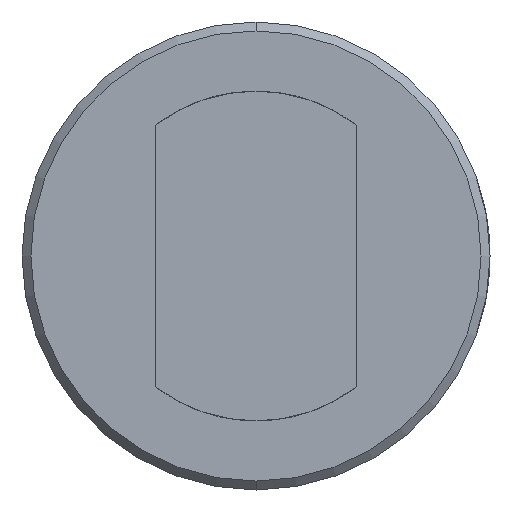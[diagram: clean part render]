
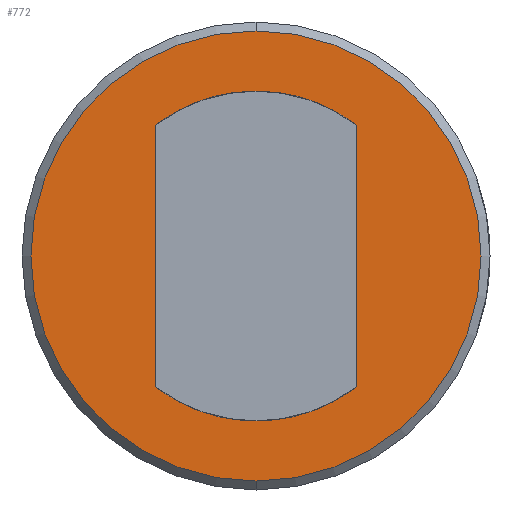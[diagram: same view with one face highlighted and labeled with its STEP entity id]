
A CAD part, front view. The second image highlights one B-rep face of the part: STEP entity #772.
In plain terms, the highlighted planar face has unit normal (0, -1, 0).
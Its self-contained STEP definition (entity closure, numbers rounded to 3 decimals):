
#1 = ORIENTED_EDGE ( 'NONE', *, *, #652, .T. ) ;
#10 = EDGE_CURVE ( 'NONE', #1125, #518, #532, .T. ) ;
#44 = AXIS2_PLACEMENT_3D ( 'NONE', #839, #1004, #325 ) ;
#95 = AXIS2_PLACEMENT_3D ( 'NONE', #254, #877, #349 ) ;
#125 = VERTEX_POINT ( 'NONE', #414 ) ;
#126 = DIRECTION ( 'NONE',  ( 0., -1., 0. ) ) ;
#177 = CIRCLE ( 'NONE', #196, 50.5 ) ;
#196 = AXIS2_PLACEMENT_3D ( 'NONE', #982, #475, #1078 ) ;
#220 = CARTESIAN_POINT ( 'NONE',  ( 13.7, 0., -14.571 ) ) ;
#221 = EDGE_CURVE ( 'NONE', #264, #797, #932, .T. ) ;
#231 = CARTESIAN_POINT ( 'NONE',  ( 0., 0., 0. ) ) ;
#245 = CIRCLE ( 'NONE', #999, 20. ) ;
#253 = CARTESIAN_POINT ( 'NONE',  ( 0., 0., 50.5 ) ) ;
#254 = CARTESIAN_POINT ( 'NONE',  ( 0., 0., 0. ) ) ;
#257 = FACE_OUTER_BOUND ( 'NONE', #815, .T. ) ;
#261 = ORIENTED_EDGE ( 'NONE', *, *, #542, .F. ) ;
#264 = VERTEX_POINT ( 'NONE', #253 ) ;
#298 = CARTESIAN_POINT ( 'NONE',  ( 13.7, 0., -52.5 ) ) ;
#310 = EDGE_CURVE ( 'NONE', #797, #264, #177, .T. ) ;
#324 = CARTESIAN_POINT ( 'NONE',  ( 0., 0., -50.5 ) ) ;
#325 = DIRECTION ( 'NONE',  ( 0., 0., 1. ) ) ;
#349 = DIRECTION ( 'NONE',  ( 0., 0., 1. ) ) ;
#387 = CARTESIAN_POINT ( 'NONE',  ( 0., 0., 0. ) ) ;
#414 = CARTESIAN_POINT ( 'NONE',  ( -13.7, 0., -14.571 ) ) ;
#429 = DIRECTION ( 'NONE',  ( 0., 0., 1. ) ) ;
#451 = EDGE_CURVE ( 'NONE', #518, #890, #1003, .T. ) ;
#455 = ORIENTED_EDGE ( 'NONE', *, *, #492, .F. ) ;
#470 = CARTESIAN_POINT ( 'NONE',  ( 13.7, 0., 14.571 ) ) ;
#475 = DIRECTION ( 'NONE',  ( 0., -1., 0. ) ) ;
#488 = FACE_BOUND ( 'NONE', #1069, .T. ) ;
#489 = DIRECTION ( 'NONE',  ( 0., 0., 1. ) ) ;
#492 = EDGE_CURVE ( 'NONE', #125, #687, #245, .T. ) ;
#518 = VERTEX_POINT ( 'NONE', #1091 ) ;
#532 = CIRCLE ( 'NONE', #44, 20. ) ;
#542 = EDGE_CURVE ( 'NONE', #687, #1125, #1082, .T. ) ;
#626 = VECTOR ( 'NONE', #916, 1000. ) ;
#630 = AXIS2_PLACEMENT_3D ( 'NONE', #231, #936, #429 ) ;
#652 = EDGE_CURVE ( 'NONE', #125, #890, #784, .T. ) ;
#665 = CARTESIAN_POINT ( 'NONE',  ( 0., 0., 0. ) ) ;
#678 = CARTESIAN_POINT ( 'NONE',  ( -13.7, 0., -52.5 ) ) ;
#687 = VERTEX_POINT ( 'NONE', #220 ) ;
#713 = ORIENTED_EDGE ( 'NONE', *, *, #10, .F. ) ;
#740 = DIRECTION ( 'NONE',  ( 0., 0., 1. ) ) ;
#753 = DIRECTION ( 'NONE',  ( 0., 0., 1. ) ) ;
#761 = PLANE ( 'NONE',  #630 ) ;
#772 = ADVANCED_FACE ( 'NONE', ( #257, #488 ), #761, .F. ) ;
#784 = LINE ( 'NONE', #678, #964 ) ;
#797 = VERTEX_POINT ( 'NONE', #324 ) ;
#815 = EDGE_LOOP ( 'NONE', ( #1057, #891 ) ) ;
#839 = CARTESIAN_POINT ( 'NONE',  ( 0., 0., 0. ) ) ;
#877 = DIRECTION ( 'NONE',  ( 0., -1., 0. ) ) ;
#890 = VERTEX_POINT ( 'NONE', #1041 ) ;
#891 = ORIENTED_EDGE ( 'NONE', *, *, #310, .T. ) ;
#916 = DIRECTION ( 'NONE',  ( 0., 0., 1. ) ) ;
#932 = CIRCLE ( 'NONE', #95, 50.5 ) ;
#936 = DIRECTION ( 'NONE',  ( 0., 1., 0. ) ) ;
#964 = VECTOR ( 'NONE', #753, 1000. ) ;
#982 = CARTESIAN_POINT ( 'NONE',  ( 0., 0., 0. ) ) ;
#994 = DIRECTION ( 'NONE',  ( 0., -1., 0. ) ) ;
#999 = AXIS2_PLACEMENT_3D ( 'NONE', #387, #994, #489 ) ;
#1003 = CIRCLE ( 'NONE', #1011, 20. ) ;
#1004 = DIRECTION ( 'NONE',  ( 0., -1., 0. ) ) ;
#1011 = AXIS2_PLACEMENT_3D ( 'NONE', #665, #126, #740 ) ;
#1041 = CARTESIAN_POINT ( 'NONE',  ( -13.7, 0., 14.571 ) ) ;
#1057 = ORIENTED_EDGE ( 'NONE', *, *, #221, .T. ) ;
#1069 = EDGE_LOOP ( 'NONE', ( #261, #455, #1, #1098, #713 ) ) ;
#1078 = DIRECTION ( 'NONE',  ( 0., 0., 1. ) ) ;
#1082 = LINE ( 'NONE', #298, #626 ) ;
#1091 = CARTESIAN_POINT ( 'NONE',  ( 0., 0., 20. ) ) ;
#1098 = ORIENTED_EDGE ( 'NONE', *, *, #451, .F. ) ;
#1125 = VERTEX_POINT ( 'NONE', #470 ) ;
